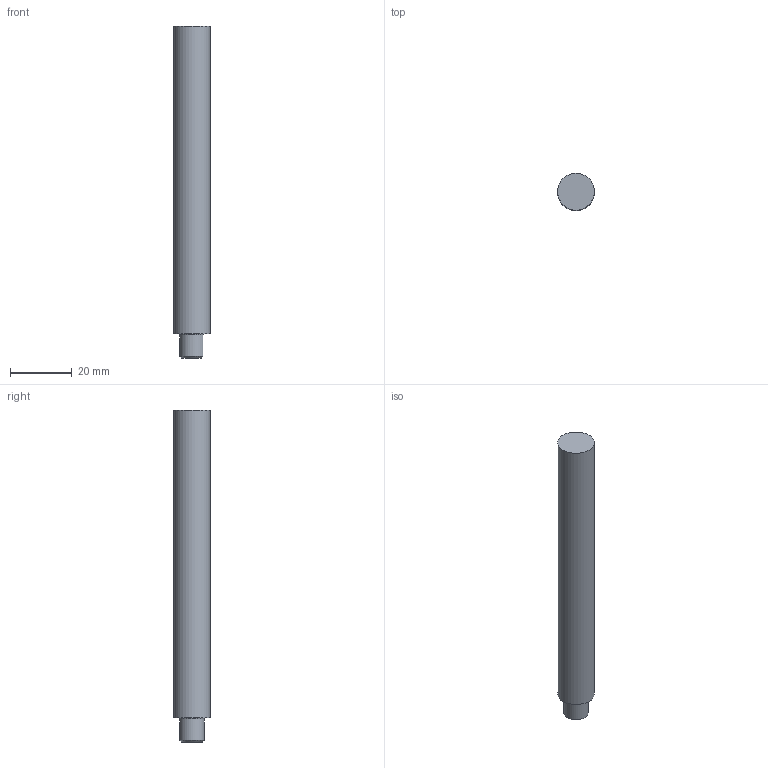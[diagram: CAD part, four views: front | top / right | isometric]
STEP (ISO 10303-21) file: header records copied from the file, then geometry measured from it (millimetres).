
FILE_DESCRIPTION (( 'STEP AP214' ), '1' );
FILE_NAME ('KKPHF Pin C_-_8-100.step', '2024-02-07T08:52:38', ( '' ), ( '' ), 'SwSTEP 2.0', 'SolidWorks 2020', '' );
FILE_SCHEMA (( 'AUTOMOTIVE_DESIGN' ));
Length unit declared in the file: millimetre
Products named in the file (1): KKPHF  Pin C_-_8-100
Bounding box: 12 x 12 x 107.9 mm (x, y, z)
Volume: 11605.2 mm3; surface area: 4287.6 mm2
Topology: 1 solids, 1 shells, 12 faces, 22 edges, 13 vertices
Faces by surface type: plane 5, cylinder 4, cone 2, torus 1
Full cylindrical faces by diameter (mm): 3.3 x1, 12 x1
Entity records: 323 total; most frequent: CARTESIAN_POINT 59, DIRECTION 48, ORIENTED_EDGE 36, AXIS2_PLACEMENT_3D 21, EDGE_CURVE 18, EDGE_LOOP 16, FACE_OUTER_BOUND 14, ADVANCED_FACE 12
